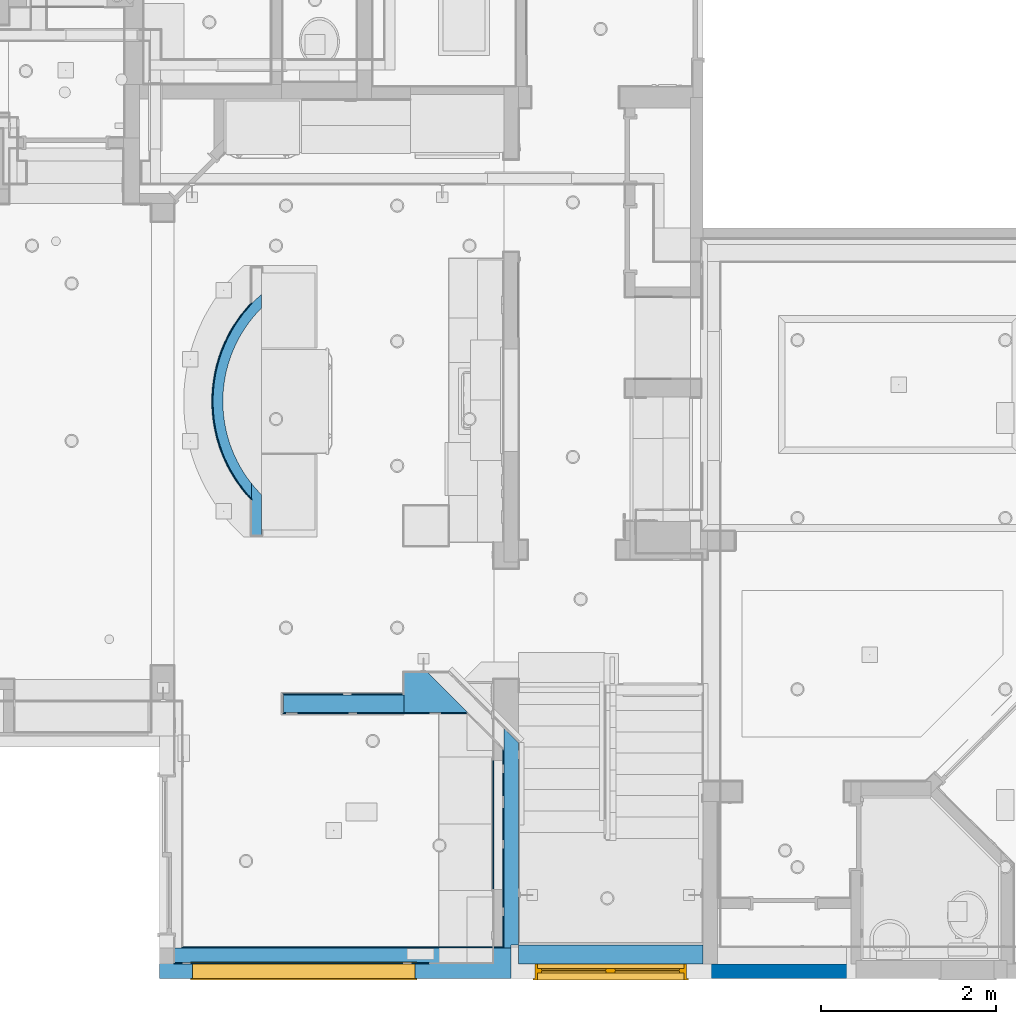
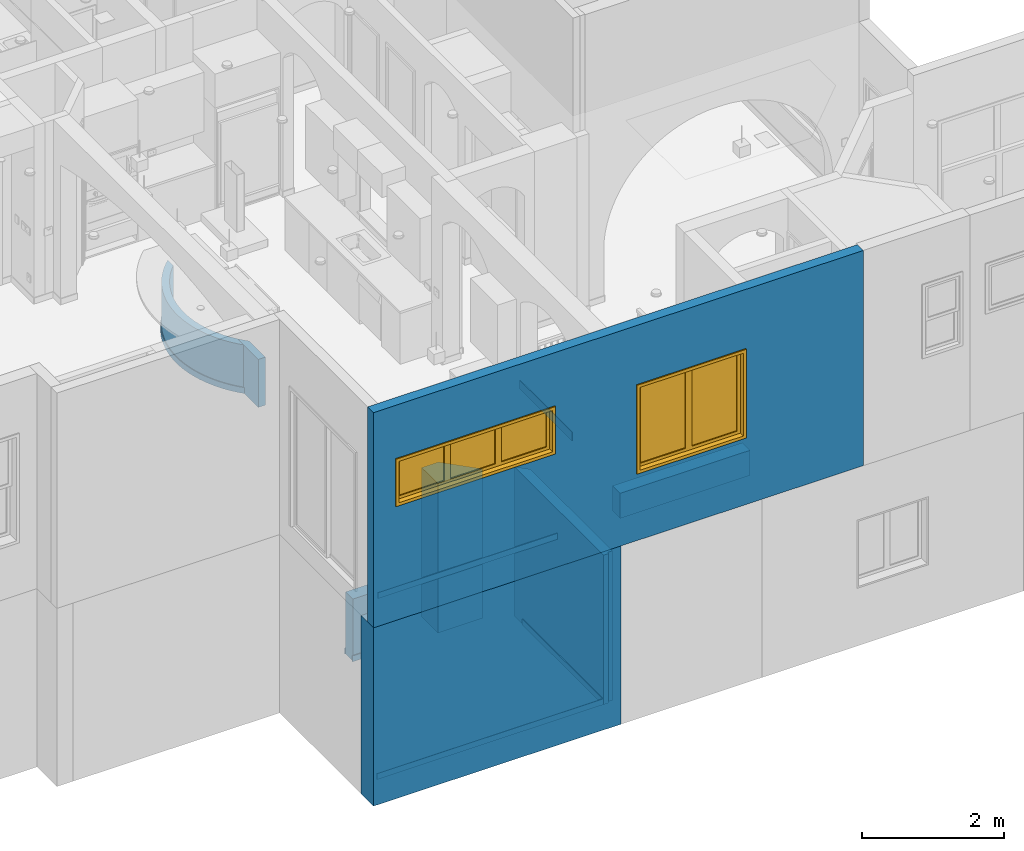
# One storey, part 3 of 60: 15 walls, 2 windows, 2 openings.
"""IFC2X3 building model written with IfcOpenShell, lengths in feet."""

from ifc_helpers import new_model, entity, si_unit, converted_unit, direction, frame, frame_2d, origin, origin_2d_with_axis, place, context, subcontext, project, spatial, polyline, circle_curve, parameter, trimmed, segment, composite_curve, rectangle, outline, extrude, source, transform, mapped, material, material_list, layer, layer_set, layer_usage, type_object, type_shapes, element, fill, save


model = new_model("IFC2X3")

# Units and contexts
model_context = context("Model", 3, precision=0.0001, world=origin(), true_north=direction((6.123031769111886e-17, 1.0)))
plan_context = context("Plan", 3, precision=0.0001, world=origin(), true_north=direction((6.123031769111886e-17, 1.0)))
body_context = subcontext(model_context, "Body", "Model", "MODEL_VIEW")
ifc_project = project(units=[converted_unit("LENGTHUNIT", "FOOT", entity("IfcLengthMeasure", 0.3048), si_unit("LENGTHUNIT", "METRE"), dimensions=[1, 0, 0, 0, 0, 0, 0]), converted_unit("AREAUNIT", "SQUARE FOOT", entity("IfcAreaMeasure", 0.09290304), si_unit("AREAUNIT", "SQUARE_METRE"), dimensions=[2, 0, 0, 0, 0, 0, 0]), converted_unit("PLANEANGLEUNIT", "DEGREE", entity("IfcPlaneAngleMeasure", 0.017453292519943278), si_unit("PLANEANGLEUNIT", "RADIAN"), dimensions=[0, 0, 0, 0, 0, 0, 0])], contexts=[model_context, plan_context])

# Site, building, storey
site_placement = place(None, origin())
site = spatial("IfcSite", under=ifc_project, at=site_placement, Name="Default", CompositionType="ELEMENT")
building_placement = place(site_placement, origin())
building = spatial("IfcBuilding", under=site, at=building_placement, CompositionType="ELEMENT")
storey_placement = place(building_placement, origin())
storey = spatial("IfcBuildingStorey", under=building, at=storey_placement, Name="First floor", CompositionType="ELEMENT", Elevation=0.0)

# Wall, openings, windows
ifc_material_1 = material(Name="Default New Material")
ifc_layer_1 = layer(ifc_material_1, 0.5416666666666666)
ifc_layer_set_1 = layer_set([ifc_layer_1], Name="Basic Wall:Wall_6.5\"")
ifc_layer_usage_1 = layer_usage(ifc_layer_set_1, "AXIS2", "NEGATIVE", 0.2708333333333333)
wall_type_1 = type_object("IfcWallType", Name="Basic Wall:Wall_6.5\"", PredefinedType="STANDARD", material=ifc_layer_set_1)
wall_1_placement = place(storey_placement, frame((26.104166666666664, 0.2708333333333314, 9.541666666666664), z_axis=(0.0, 0.0, 1.0), x_axis=(-1.0, 0.0, 0.0)))
wall_1 = element("IfcWallStandardCase", 1, at=wall_1_placement, inside=storey, type_object=wall_type_1, material=ifc_layer_usage_1, Name="Basic Wall:Wall_6.5\"", ObjectType="Basic Wall:Wall_6.5\"", context=body_context, shape_type="SweptSolid", body=[
    extrude(rectangle(XDim=26.10416666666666, YDim=0.5416666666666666, at=frame_2d((13.05208333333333, 0.0), x_axis=(-1.0, 0.0))), origin(), (0.0, 0.0, 1.0), 12.125),
])
opening_1_placement = place(wall_1_placement, frame((12.02083333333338, 0.27083333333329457, 3.8750000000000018)))
opening_1 = element("IfcOpeningElement", 2, at=opening_1_placement, cuts=wall_1, Name="C_Double Window:5'-6\" X 4'-8\":1", ObjectType="Opening", context=body_context, shape_type="SweptSolid", body=[
    extrude(rectangle(XDim=5.666666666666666, YDim=4.833333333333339, at=frame_2d((2.4166666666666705, 2.833333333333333), x_axis=(0.0, 1.0))), frame((0.0, 0.0, 0.0), z_axis=(0.0, -1.0, 0.0), x_axis=(0.0, 0.0, 1.0)), (0.0, 0.0, 1.0), 0.5416666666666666),
])
opening_2_placement = place(wall_1_placement, frame((24.85416666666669, 0.2708333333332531, 6.54166666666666)))
opening_2 = element("IfcOpeningElement", 3, at=opening_2_placement, cuts=wall_1, Name="C_Triple Window:8'-2\" X 2'-4\":1", ObjectType="Opening", context=body_context, shape_type="SweptSolid", body=[
    extrude(rectangle(XDim=8.33333333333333, YDim=2.5000000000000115, at=frame_2d((1.2500000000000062, 4.166666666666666), x_axis=(0.0, 1.0))), frame((0.0, 0.0, 0.0), z_axis=(0.0, -1.0, 0.0), x_axis=(0.0, 0.0, 1.0)), (0.0, 0.0, 1.0), 0.5416666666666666),
])
ifc_material_2 = material(Name="Glass")
ifc_material_list = material_list([ifc_material_1, ifc_material_2])
window_style_1 = type_object("IfcWindowStyle", Name="C_Triple Window:8'-2\" X 2'-4\"", ConstructionType="NOTDEFINED", OperationType="NOTDEFINED", ParameterTakesPrecedence=False, Sizeable=False, material=ifc_material_list)
shared_shape_1 = source(origin(), body_context, "Body", "SweptSolid", [
    extrude(rectangle(XDim=0.04166666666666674, YDim=0.04166666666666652, at=origin_2d_with_axis()), frame((3.7685185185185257, 0.2916666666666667, 0.25000000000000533), z_axis=(0.0, 0.0, 1.0), x_axis=(-1.0, 0.0, 0.0)), (0.0, 0.0, 1.0), 2.0000000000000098),
    extrude(rectangle(XDim=0.04166666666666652, YDim=0.04166666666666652, at=origin_2d_with_axis()), frame((4.56481481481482, 0.2916666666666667, 0.25000000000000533), z_axis=(0.0, 0.0, 1.0), x_axis=(-1.0, 0.0, 0.0)), (0.0, 0.0, 1.0), 2.0000000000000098),
    extrude(rectangle(XDim=2.3888888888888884, YDim=0.04166666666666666, at=origin_2d_with_axis()), frame((4.166666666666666, 0.29166666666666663, 0.25000000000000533)), (0.0, 0.0, 1.0), 2.0000000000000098),
    extrude(outline(polyline([(-1.3611111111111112, -1.1666666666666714), (1.3611111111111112, -1.1666666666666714), (1.3611111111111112, 1.1666666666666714), (-1.3611111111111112, 1.1666666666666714), (-1.3611111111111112, -1.1666666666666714)]), holes=[polyline([(1.1944444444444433, -1.0), (-1.194444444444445, -1.0), (-1.194444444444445, 1.0), (1.194444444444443, 1.0), (1.1944444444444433, -1.0)])]), frame((4.166666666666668, 0.20833333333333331, 1.2500000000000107), z_axis=(0.0, 1.0, 0.0), x_axis=(1.0, 0.0, 0.0)), (0.0, 0.0, 1.0), 0.16666666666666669),
    extrude(rectangle(XDim=2.3888888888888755, YDim=0.04166666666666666, at=origin_2d_with_axis()), frame((4.166666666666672, 0.29166666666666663, 0.8958333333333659)), (0.0, 0.0, 1.0), 0.041666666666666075),
    extrude(rectangle(XDim=2.38888888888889, YDim=0.04166666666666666, at=origin_2d_with_axis()), frame((4.166666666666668, 0.29166666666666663, 1.5625000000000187)), (0.0, 0.0, 1.0), 0.041666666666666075),
    extrude(rectangle(XDim=0.04166666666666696, YDim=0.04166666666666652, at=frame_2d((4.440892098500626e-16, 0.0), x_axis=(1.0, 0.0))), frame((1.0462962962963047, 0.2916666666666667, 0.25000000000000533), z_axis=(0.0, 0.0, 1.0), x_axis=(-1.0, 0.0, 0.0)), (0.0, 0.0, 1.0), 2.0000000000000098),
    extrude(rectangle(XDim=0.04166666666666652, YDim=0.04166666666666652, at=origin_2d_with_axis()), frame((1.8425925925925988, 0.2916666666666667, 0.25000000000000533), z_axis=(0.0, 0.0, 1.0), x_axis=(-1.0, 0.0, 0.0)), (0.0, 0.0, 1.0), 2.0000000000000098),
    extrude(rectangle(XDim=2.3888888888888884, YDim=0.04166666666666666, at=frame_2d((-1.1102230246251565e-16, 0.0), x_axis=(1.0, 0.0))), frame((1.444444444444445, 0.29166666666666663, 0.25000000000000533)), (0.0, 0.0, 1.0), 2.0000000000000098),
    extrude(outline(polyline([(-1.3611111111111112, -1.1666666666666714), (1.3611111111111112, -1.1666666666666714), (1.3611111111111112, 1.1666666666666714), (-1.3611111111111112, 1.1666666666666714), (-1.3611111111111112, -1.1666666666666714)]), holes=[polyline([(1.1944444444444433, -1.0), (-1.194444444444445, -1.0), (-1.194444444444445, 1.0), (1.194444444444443, 1.0), (1.1944444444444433, -1.0)])]), frame((1.444444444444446, 0.20833333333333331, 1.2500000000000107), z_axis=(0.0, 1.0, 0.0), x_axis=(1.0, 0.0, 0.0)), (0.0, 0.0, 1.0), 0.16666666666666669),
    extrude(rectangle(XDim=2.3888888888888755, YDim=0.04166666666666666, at=frame_2d((2.220446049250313e-16, 0.0), x_axis=(1.0, 0.0))), frame((1.4444444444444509, 0.29166666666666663, 0.8958333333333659)), (0.0, 0.0, 1.0), 0.041666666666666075),
    extrude(rectangle(XDim=2.38888888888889, YDim=0.04166666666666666, at=origin_2d_with_axis()), frame((1.444444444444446, 0.29166666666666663, 1.5625000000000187)), (0.0, 0.0, 1.0), 0.041666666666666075),
    extrude(rectangle(XDim=0.04166666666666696, YDim=0.04166666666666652, at=origin_2d_with_axis()), frame((6.490740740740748, 0.2916666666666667, 0.25000000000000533), z_axis=(0.0, 0.0, 1.0), x_axis=(-1.0, 0.0, 0.0)), (0.0, 0.0, 1.0), 2.0000000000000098),
    extrude(rectangle(XDim=0.04166666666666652, YDim=0.04166666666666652, at=origin_2d_with_axis()), frame((7.287037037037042, 0.2916666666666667, 0.25000000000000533), z_axis=(0.0, 0.0, 1.0), x_axis=(-1.0, 0.0, 0.0)), (0.0, 0.0, 1.0), 2.0000000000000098),
    extrude(rectangle(XDim=2.3888888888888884, YDim=0.04166666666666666, at=frame_2d((-4.440892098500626e-16, 0.0), x_axis=(1.0, 0.0))), frame((6.888888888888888, 0.29166666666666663, 0.25000000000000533)), (0.0, 0.0, 1.0), 2.0000000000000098),
    extrude(outline(polyline([(-1.3611111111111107, -1.1666666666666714), (1.3611111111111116, -1.1666666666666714), (1.3611111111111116, 1.1666666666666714), (-1.3611111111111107, 1.1666666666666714), (-1.3611111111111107, -1.1666666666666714)]), holes=[polyline([(1.1944444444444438, -1.0), (-1.1944444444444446, -1.0), (-1.1944444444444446, 1.0), (1.1944444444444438, 1.0), (1.1944444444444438, -1.0)])]), frame((6.888888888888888, 0.20833333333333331, 1.2500000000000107), z_axis=(0.0, 1.0, 0.0), x_axis=(1.0, 0.0, 0.0)), (0.0, 0.0, 1.0), 0.16666666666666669),
    extrude(rectangle(XDim=2.3888888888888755, YDim=0.04166666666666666, at=frame_2d((2.220446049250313e-16, 0.0), x_axis=(1.0, 0.0))), frame((6.888888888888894, 0.29166666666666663, 0.8958333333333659)), (0.0, 0.0, 1.0), 0.041666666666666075),
    extrude(rectangle(XDim=2.38888888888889, YDim=0.04166666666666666, at=frame_2d((-4.440892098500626e-16, 0.0), x_axis=(1.0, 0.0))), frame((6.888888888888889, 0.29166666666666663, 1.5625000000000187)), (0.0, 0.0, 1.0), 0.041666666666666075),
    extrude(outline(polyline([(-4.250000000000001, -1.3333333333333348), (4.250000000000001, -1.3333333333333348), (4.250000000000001, 1.3333333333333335), (-4.250000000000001, 1.3333333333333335), (-4.250000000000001, -1.3333333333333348)]), holes=[polyline([(-4.083333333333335, -1.1666666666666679), (-4.083333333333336, 1.166666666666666), (4.0833333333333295, 1.166666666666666), (4.0833333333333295, -1.1666666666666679), (-4.083333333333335, -1.1666666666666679)])]), frame((4.166666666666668, -0.0625, 1.2500000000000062), z_axis=(0.0, 1.0, 0.0), x_axis=(1.0, 0.0, 0.0)), (0.0, 0.0, 1.0), 0.0625),
    extrude(outline(polyline([(-4.249999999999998, -1.333333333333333), (4.249999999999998, -1.333333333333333), (4.249999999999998, 1.3333333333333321), (-4.249999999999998, 1.3333333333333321), (-4.249999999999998, -1.333333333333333)]), holes=[polyline([(-4.083333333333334, -1.166666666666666), (-4.083333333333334, 1.1666666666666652), (4.08333333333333, 1.1666666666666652), (4.08333333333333, -1.166666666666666), (-4.083333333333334, -1.166666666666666)])]), frame((4.166666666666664, 0.5416666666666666, 1.2500000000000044), z_axis=(0.0, 1.0, 0.0), x_axis=(1.0, 0.0, 0.0)), (0.0, 0.0, 1.0), 0.0625),
    extrude(outline(polyline([(-4.166666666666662, -1.2499999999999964), (4.166666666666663, -1.2499999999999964), (4.166666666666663, 1.2499999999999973), (-4.166666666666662, 1.2499999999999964), (-4.166666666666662, -1.2499999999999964)]), holes=[polyline([(4.08333333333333, -1.1666666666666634), (-4.08333333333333, -1.1666666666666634), (-4.083333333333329, 1.1666666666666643), (4.0833333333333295, 1.1666666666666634), (4.08333333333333, -1.1666666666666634)])]), frame((4.166666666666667, 0.0, 1.250000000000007), z_axis=(0.0, 1.0, 0.0), x_axis=(1.0, 0.0, 0.0)), (0.0, 0.0, 1.0), 0.5416666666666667),
])
type_shapes(window_style_1, [shared_shape_1])
window_1_placement = place(opening_2_placement, frame((0.0, 0.0, 0.0), z_axis=(0.0, 0.0, 1.0), x_axis=(-1.0, 0.0, 0.0)))
window_1 = element("IfcWindow", 4, at=window_1_placement, inside=storey, type_object=window_style_1, material=ifc_material_list, Name="C_Triple Window:8'-2\" X 2'-4\"", ObjectType="C_Triple Window:8'-2\" X 2'-4\"", OverallHeight=2.5000000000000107, OverallWidth=8.333333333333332, context=body_context, shape_type="MappedRepresentation", body=[
    mapped(shared_shape_1, transform((0.0, 0.0, 0.0), scale=1.0)),
])
fill(opening_2, window_1)
window_style_2 = type_object("IfcWindowStyle", Name="C_Double Window:5'-6\" X 4'-8\"", ConstructionType="NOTDEFINED", OperationType="NOTDEFINED", ParameterTakesPrecedence=False, Sizeable=False, material=ifc_material_list)
shared_shape_2 = source(origin(), body_context, "Body", "SweptSolid", [
    extrude(outline(polyline([(-1.3750000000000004, -2.333333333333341), (1.3750000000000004, -2.333333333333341), (1.3750000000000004, 2.333333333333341), (-1.3750000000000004, 2.333333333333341), (-1.3750000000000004, -2.333333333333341)]), holes=[polyline([(1.2083333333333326, -2.166666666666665), (-1.2083333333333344, -2.1666666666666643), (-1.2083333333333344, 2.166666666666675), (1.2083333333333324, 2.166666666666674), (1.2083333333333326, -2.166666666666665)])]), frame((1.458333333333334, 0.20833333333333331, 2.4166666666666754), z_axis=(0.0, 1.0, 0.0), x_axis=(1.0, 0.0, 0.0)), (0.0, 0.0, 1.0), 0.16666666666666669),
    extrude(rectangle(XDim=2.416666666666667, YDim=0.04166666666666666, at=frame_2d((-1.1102230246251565e-16, 0.0), x_axis=(1.0, 0.0))), frame((1.458333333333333, 0.29166666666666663, 0.25000000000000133)), (0.0, 0.0, 1.0), 4.333333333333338),
    extrude(outline(polyline([(-1.3750000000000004, -2.333333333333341), (1.3750000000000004, -2.333333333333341), (1.3750000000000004, 2.333333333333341), (-1.3750000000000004, 2.333333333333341), (-1.3750000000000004, -2.333333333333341)]), holes=[polyline([(1.2083333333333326, -2.166666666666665), (-1.2083333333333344, -2.1666666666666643), (-1.2083333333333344, 2.166666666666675), (1.2083333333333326, 2.166666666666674), (1.2083333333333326, -2.166666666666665)])]), frame((4.208333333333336, 0.20833333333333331, 2.4166666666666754), z_axis=(0.0, 1.0, 0.0), x_axis=(1.0, 0.0, 0.0)), (0.0, 0.0, 1.0), 0.16666666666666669),
    extrude(rectangle(XDim=2.416666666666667, YDim=0.04166666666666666, at=origin_2d_with_axis()), frame((4.208333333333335, 0.29166666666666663, 0.25000000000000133)), (0.0, 0.0, 1.0), 4.333333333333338),
    extrude(outline(polyline([(-2.9166666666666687, -2.5000000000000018), (2.9166666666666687, -2.5000000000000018), (2.9166666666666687, 2.5), (-2.9166666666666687, 2.5), (-2.9166666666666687, -2.5000000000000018)]), holes=[polyline([(-2.750000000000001, -2.333333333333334), (-2.750000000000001, 2.3333333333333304), (2.7499999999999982, 2.3333333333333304), (2.7499999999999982, -2.333333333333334), (-2.750000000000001, -2.333333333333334)])]), frame((2.8333333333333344, -0.0625, 2.4166666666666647), z_axis=(0.0, 1.0, 0.0), x_axis=(1.0, 0.0, 0.0)), (0.0, 0.0, 1.0), 0.0625),
    extrude(outline(polyline([(-2.916666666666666, -2.4999999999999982), (2.916666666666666, -2.4999999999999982), (2.916666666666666, 2.4999999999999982), (-2.916666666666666, 2.4999999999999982), (-2.916666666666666, -2.4999999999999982)]), holes=[polyline([(-2.7500000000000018, -2.333333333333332), (-2.7500000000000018, 2.333333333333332), (2.7499999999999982, 2.333333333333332), (2.7499999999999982, -2.333333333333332), (-2.7500000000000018, -2.333333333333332)])]), frame((2.833333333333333, 0.5416666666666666, 2.4166666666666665), z_axis=(0.0, 1.0, 0.0), x_axis=(1.0, 0.0, 0.0)), (0.0, 0.0, 1.0), 0.0625),
    extrude(outline(polyline([(-2.833333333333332, -2.4166666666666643), (2.833333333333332, -2.4166666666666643), (2.833333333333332, 2.416666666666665), (-2.833333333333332, 2.416666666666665), (-2.833333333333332, -2.4166666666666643)]), holes=[polyline([(2.7499999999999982, -2.3333333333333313), (-2.7499999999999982, -2.3333333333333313), (-2.749999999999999, 2.3333333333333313), (2.7499999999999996, 2.333333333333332), (2.7499999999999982, -2.3333333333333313)])]), frame((2.8333333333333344, 0.0, 2.4166666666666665), z_axis=(0.0, 1.0, 0.0), x_axis=(1.0, 0.0, 0.0)), (0.0, 0.0, 1.0), 0.5416666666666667),
])
type_shapes(window_style_2, [shared_shape_2])
window_2_placement = place(opening_1_placement, frame((0.0, 0.0, 0.0), z_axis=(0.0, 0.0, 1.0), x_axis=(-1.0, 0.0, 0.0)))
window_2 = element("IfcWindow", 5, at=window_2_placement, inside=storey, type_object=window_style_2, material=ifc_material_list, Name="C_Double Window:5'-6\" X 4'-8\"", ObjectType="C_Double Window:5'-6\" X 4'-8\"", OverallHeight=4.833333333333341, OverallWidth=5.666666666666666, context=body_context, shape_type="MappedRepresentation", body=[
    mapped(shared_shape_2, transform((0.0, 0.0, 0.0), scale=1.0)),
])
fill(opening_1, window_2)

# Walls
ifc_layer_usage_2 = layer_usage(ifc_layer_set_1, "AXIS2", "NEGATIVE", 0.2708333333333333)
wall_2_placement = place(storey_placement, frame((13.187498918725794, 1.1458333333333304, 0.0), z_axis=(0.0, 0.0, 1.0), x_axis=(0.0, 1.0, 0.0)))
element("IfcWallStandardCase", 6, at=wall_2_placement, inside=storey, type_object=wall_type_1, material=ifc_layer_usage_2, Name="Basic Wall:Wall_6.5\"", ObjectType="Basic Wall:Wall_6.5\"", context=body_context, shape_type="SweptSolid", body=[
    extrude(outline(polyline([(3.133679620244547, -3.5645728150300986), (3.899711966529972, -3.5645728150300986), (3.3580452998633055, -3.0229061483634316), (-1.919188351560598, 2.254327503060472), (-2.11069643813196, 2.0628194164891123), (-2.095965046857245, 2.048088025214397), (-2.0370394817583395, 1.9891624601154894), (-2.228547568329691, 1.7976543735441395), (3.133679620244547, -3.5645728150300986)])), frame((2.9511213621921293, 0.033854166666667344, 0.0), z_axis=(0.0, 0.0, 1.0), x_axis=(0.7071067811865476, 0.7071067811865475, 0.0)), (0.0, 0.0, 1.0), 8.416666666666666),
])
ifc_layer_2 = layer(ifc_material_1, 0.6666666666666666)
ifc_layer_set_2 = layer_set([ifc_layer_2], Name="Basic Wall:Wall_8\"")
ifc_layer_usage_3 = layer_usage(ifc_layer_set_2, "AXIS2", "POSITIVE", -0.33333333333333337)
wall_type_2 = type_object("IfcWallType", Name="Basic Wall:Wall_8\"", PredefinedType="STANDARD", material=ifc_layer_set_2)
wall_3_placement = place(storey_placement, frame((9.171394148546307, 10.29172442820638, 0.0), z_axis=(0.0, 0.0, 1.0), x_axis=(-1.0, 0.0, 0.0)))
element("IfcWallStandardCase", 7, at=wall_3_placement, inside=storey, type_object=wall_type_2, material=ifc_layer_usage_3, Name="Basic Wall:Wall_8\"", ObjectType="Basic Wall:Wall_8\"", context=body_context, shape_type="SweptSolid", body=[
    extrude(rectangle(XDim=4.520815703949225, YDim=0.6666666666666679, at=frame_2d((2.2604078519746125, 2.7755575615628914e-17), x_axis=(-1.0, 0.0))), origin(), (0.0, 0.0, 1.0), 3.5),
])
ifc_layer_3 = layer(ifc_material_1, 0.7083333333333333)
ifc_layer_set_3 = layer_set([ifc_layer_3], Name="Basic Wall:Wall_8.5\"")
ifc_layer_usage_4 = layer_usage(ifc_layer_set_3, "AXIS2", "POSITIVE", -0.35416666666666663)
wall_type_3 = type_object("IfcWallType", Name="Basic Wall:Wall_8.5\"", PredefinedType="STANDARD", material=ifc_layer_set_3)
wall_4_placement = place(storey_placement, frame((13.458332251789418, 0.895709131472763, 10.666666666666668)))
element("IfcWallStandardCase", 8, at=wall_4_placement, inside=storey, type_object=wall_type_3, material=ifc_layer_usage_4, Name="Basic Wall:Wall_8.5\"", ObjectType="Basic Wall:Wall_8.5\"", context=body_context, shape_type="SweptSolid", body=[
    extrude(rectangle(XDim=6.916666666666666, YDim=0.7083333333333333, at=frame_2d((3.458333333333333, 0.0), x_axis=(-1.0, 0.0))), origin(), (0.0, 0.0, 1.0), 1.4166666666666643),
])
ifc_layer_4 = layer(ifc_material_1, 0.375)
ifc_layer_set_4 = layer_set([ifc_layer_4], Name="Basic Wall:Wall_4.5\"")
ifc_layer_usage_5 = layer_usage(ifc_layer_set_4, "AXIS2", "NEGATIVE", 0.1875)
wall_type_4 = type_object("IfcWallType", Name="Basic Wall:Wall_4.5\"", PredefinedType="STANDARD", material=ifc_layer_set_4)
wall_5_placement = place(storey_placement, frame((3.645833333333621, 16.624999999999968, 10.666666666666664), z_axis=(0.0, 0.0, 1.0), x_axis=(0.0, 1.0, 0.0)))
element("IfcWallStandardCase", 9, at=wall_5_placement, inside=storey, type_object=wall_type_4, material=ifc_layer_usage_5, Name="Basic Wall:Wall_4.5\"", ObjectType="Basic Wall:Wall_4.5\"", context=body_context, shape_type="SweptSolid", body=[
    extrude(outline(composite_curve([segment(trimmed(circle_curve(frame_2d((5.0, -3.6831252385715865), x_axis=(0.0, -1.0)), 4.9466550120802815), [parameter(218.51241476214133)], [parameter(225.03583029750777)], True, "PARAMETER"), False, "CONTINUOUS"), segment(polyline([(1.9197960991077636, 0.18750000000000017), (1.34784004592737, 0.18750000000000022)]), True, "CONTINUOUS"), segment(polyline([(1.34784004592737, 0.18750000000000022), (0.0, 0.1875)]), True, "CONTINUOUS"), segment(polyline([(0.0, 0.1875), (0.0, -0.1875)]), True, "CONTINUOUS"), segment(polyline([(0.0, -0.1875), (1.499999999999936, -0.1875)]), True, "CONTINUOUS")], self_intersect=False)), origin(), (0.0, 0.0, 1.0), 2.7083333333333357),
])
ifc_layer_usage_6 = layer_usage(ifc_layer_set_4, "AXIS2", "POSITIVE", -0.1875)
wall_6_placement = place(storey_placement, frame((3.594708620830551, 18.101518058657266, 10.666666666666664)))
element("IfcWallStandardCase", 10, at=wall_6_placement, inside=storey, type_object=wall_type_4, material=ifc_layer_usage_6, Name="Basic Wall:Wall_4.5\"", ObjectType="Basic Wall:Wall_4.5\"", context=body_context, shape_type="SweptSolid", body=[
    extrude(outline(composite_curve([segment(trimmed(circle_curve(frame_2d((3.7342499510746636, 3.523481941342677), x_axis=(1.0, 0.0)), 5.3216550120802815), [parameter(131.06144888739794)], [parameter(136.6634293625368)], True, "PARAMETER"), True, "CONTINUOUS"), segment(trimmed(circle_curve(frame_2d((3.7342499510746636, 3.523481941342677), x_axis=(1.0, 0.0)), 5.3216550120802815), [parameter(136.6634293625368)], [parameter(223.33657063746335)], True, "PARAMETER"), True, "CONTINUOUS"), segment(polyline([(-0.1363752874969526, -0.12867801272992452), (-0.13637528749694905, 0.4432780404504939)]), True, "CONTINUOUS"), segment(trimmed(circle_curve(frame_2d((3.7342499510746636, 3.523481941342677), x_axis=(1.0, 0.0)), 4.9466550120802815), [parameter(134.96416970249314)], [parameter(218.512414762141)], True, "PARAMETER"), False, "CONTINUOUS"), segment(polyline([(0.23862471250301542, 7.023481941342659), (0.23862471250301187, 7.536039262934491)]), True, "CONTINUOUS")], self_intersect=False)), origin(), (0.0, 0.0, 1.0), 2.7083333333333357),
])
ifc_layer_5 = layer(ifc_material_1, 1.1458333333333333)
ifc_layer_set_5 = layer_set([ifc_layer_5], Name="Basic Wall:Wall_1' 1 3/4\"")
ifc_layer_usage_7 = layer_usage(ifc_layer_set_5, "AXIS2", "NEGATIVE", 0.5729166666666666)
wall_type_5 = type_object("IfcWallType", Name="Basic Wall:Wall_1' 1 3/4\"", PredefinedType="STANDARD", material=ifc_layer_set_5)
wall_7_placement = place(storey_placement, frame((13.187498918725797, 0.5729166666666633, -0.5), z_axis=(0.0, 0.0, 1.0), x_axis=(-1.0, 0.0, 0.0)))
element("IfcWallStandardCase", 11, at=wall_7_placement, inside=storey, type_object=wall_type_5, material=ifc_layer_usage_7, Name="Basic Wall:Wall_1' 1 3/4\"", ObjectType="Basic Wall:Wall_1' 1 3/4\"", context=body_context, shape_type="SweptSolid", body=[
    extrude(rectangle(XDim=13.187441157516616, YDim=1.1458333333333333, at=frame_2d((6.593720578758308, 0.0), x_axis=(-1.0, 0.0))), origin(), (0.0, 0.0, 1.0), 10.041666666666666),
])
ifc_layer_6 = layer(ifc_material_1, 1.5)
ifc_layer_set_6 = layer_set([ifc_layer_6], Name="Basic Wall:Wall_1'6\"")
ifc_layer_usage_8 = layer_usage(ifc_layer_set_6, "AXIS2", "NEGATIVE", 0.75)
wall_type_6 = type_object("IfcWallType", Name="Basic Wall:Wall_1'6\"", PredefinedType="STANDARD", material=ifc_layer_set_6)
wall_8_placement = place(storey_placement, frame((11.567351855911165, 10.708298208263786, 0.0), z_axis=(0.0, 0.0, 1.0), x_axis=(-1.0, 2.0991945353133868e-05, 0.0)))
element("IfcWallStandardCase", 12, at=wall_8_placement, inside=storey, type_object=wall_type_6, material=ifc_layer_usage_8, Name="Basic Wall:Wall_1'6\"", ObjectType="Basic Wall:Wall_1'6\"", context=body_context, shape_type="SweptSolid", body=[
    extrude(outline(polyline([(2.395948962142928, -0.7499999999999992), (2.395948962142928, 0.7500000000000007), (0.0, 0.7500000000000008), (1.50006297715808, -0.7500000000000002), (2.395948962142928, -0.7499999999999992)])), origin(), (0.0, 0.0, 1.0), 8.416666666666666),
])
ifc_layer_7 = layer(ifc_material_1, 0.041666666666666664)
ifc_layer_set_7 = layer_set([ifc_layer_7], Name="Basic Wall:Wall Border_T1")
ifc_layer_usage_9 = layer_usage(ifc_layer_set_7, "AXIS2", "NEGATIVE", 0.020833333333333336)
wall_type_7 = type_object("IfcWallType", Name="Basic Wall:Wall Border_T1", PredefinedType="STANDARD", material=ifc_layer_set_7)
wall_9_placement = place(storey_placement, frame((9.12980098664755, 10.645833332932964, 0.0), z_axis=(0.0, 0.0, 1.0), x_axis=(-1.0, 0.0, 0.0)))
element("IfcWallStandardCase", 13, at=wall_9_placement, inside=storey, type_object=wall_type_7, material=ifc_layer_usage_9, Name="Basic Wall:Wall Border_T1", ObjectType="Basic Wall:Wall Border_T1", context=body_context, shape_type="SweptSolid", body=[
    extrude(rectangle(XDim=4.520889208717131, YDim=0.04166666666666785, at=frame_2d((2.2604446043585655, 3.2959746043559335e-17), x_axis=(-1.0, 0.0))), origin(), (0.0, 0.0, 1.0), 0.3333333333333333),
])
ifc_layer_usage_10 = layer_usage(ifc_layer_set_7, "AXIS2", "NEGATIVE", 0.020833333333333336)
wall_10_placement = place(storey_placement, frame((4.608911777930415, 9.937500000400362, 0.0)))
element("IfcWallStandardCase", 14, at=wall_10_placement, inside=storey, type_object=wall_type_7, material=ifc_layer_usage_10, Name="Basic Wall:Wall Border_T1", ObjectType="Basic Wall:Wall Border_T1", context=body_context, shape_type="SweptSolid", body=[
    extrude(outline(polyline([(6.941130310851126, -0.02083333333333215), (6.899463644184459, 0.020833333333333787), (0.04166666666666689, 0.020833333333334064), (0.0, 0.020833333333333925), (0.0, -0.02083333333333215), (6.941130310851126, -0.02083333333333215)])), origin(), (0.0, 0.0, 1.0), 0.3333333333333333),
])
ifc_layer_usage_11 = layer_usage(ifc_layer_set_7, "AXIS2", "NEGATIVE", 0.020833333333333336)
wall_11_placement = place(storey_placement, frame((12.895833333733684, 8.591708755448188, 0.0), z_axis=(0.0, 0.0, 1.0), x_axis=(0.0, -1.0, 0.0)))
element("IfcWallStandardCase", 15, at=wall_11_placement, inside=storey, type_object=wall_type_7, material=ifc_layer_usage_11, Name="Basic Wall:Wall Border_T1", ObjectType="Basic Wall:Wall Border_T1", context=body_context, shape_type="SweptSolid", body=[
    extrude(outline(polyline([(7.404208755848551, -0.02083333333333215), (7.404208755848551, 0.020833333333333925), (0.041666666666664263, 0.020833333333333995), (0.0, -0.02083333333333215), (7.404208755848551, -0.02083333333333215)])), origin(), (0.0, 0.0, 1.0), 0.3333333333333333),
])
ifc_layer_usage_12 = layer_usage(ifc_layer_set_7, "AXIS2", "NEGATIVE", 0.020833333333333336)
wall_12_placement = place(storey_placement, frame((12.916666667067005, 1.166666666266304, 0.0), z_axis=(0.0, 0.0, 1.0), x_axis=(-1.0, 0.0, 0.0)))
element("IfcWallStandardCase", 16, at=wall_12_placement, inside=storey, type_object=wall_type_7, material=ifc_layer_usage_12, Name="Basic Wall:Wall Border_T1", ObjectType="Basic Wall:Wall Border_T1", context=body_context, shape_type="SweptSolid", body=[
    extrude(rectangle(XDim=12.083333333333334, YDim=0.04166666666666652, at=frame_2d((6.041666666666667, -8.500145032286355e-17), x_axis=(-1.0, 0.0))), origin(), (0.0, 0.0, 1.0), 0.3333333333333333),
])
ifc_layer_usage_13 = layer_usage(ifc_layer_set_7, "AXIS2", "NEGATIVE", 0.020833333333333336)
wall_13_placement = place(storey_placement, frame((12.520833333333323, 8.166666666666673, 13.666666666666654), z_axis=(0.0, 0.0, 1.0), x_axis=(0.0, -1.0, 0.0)))
element("IfcWallStandardCase", 17, at=wall_13_placement, inside=storey, type_object=wall_type_7, material=ifc_layer_usage_13, Name="Basic Wall:Wall Border_T1", ObjectType="Basic Wall:Wall Border_T1", context=body_context, shape_type="SweptSolid", body=[
    extrude(rectangle(XDim=4.833333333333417, YDim=0.04166666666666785, at=frame_2d((2.4166666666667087, 0.0), x_axis=(-1.0, 0.0))), origin(), (0.0, 0.0, 1.0), 0.5000000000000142),
])
ifc_layer_usage_14 = layer_usage(ifc_layer_set_7, "AXIS2", "NEGATIVE", 0.020833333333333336)
wall_14_placement = place(storey_placement, frame((10.125, 0.5625000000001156, 10.666666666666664), z_axis=(0.0, 0.0, 1.0), x_axis=(-1.0, 0.0, 0.0)))
element("IfcWallStandardCase", 18, at=wall_14_placement, inside=storey, type_object=wall_type_7, material=ifc_layer_usage_14, Name="Basic Wall:Wall Border_T1", ObjectType="Basic Wall:Wall Border_T1", context=body_context, shape_type="SweptSolid", body=[
    extrude(rectangle(XDim=9.583333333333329, YDim=0.04166666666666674, at=frame_2d((4.791666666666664, 2.7755575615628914e-17), x_axis=(-1.0, 0.0))), origin(), (0.0, 0.0, 1.0), 0.3333333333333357),
])
ifc_layer_usage_15 = layer_usage(ifc_layer_set_7, "AXIS2", "POSITIVE", -0.020833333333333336)
wall_15_placement = place(storey_placement, frame((3.473368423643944, 17.92681039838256, 10.666666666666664)))
element("IfcWallStandardCase", 19, at=wall_15_placement, inside=storey, type_object=wall_type_7, material=ifc_layer_usage_15, Name="Basic Wall:Wall Border_T1", ObjectType="Basic Wall:Wall Border_T1", context=body_context, shape_type="SweptSolid", body=[
    extrude(outline(composite_curve([segment(polyline([(-0.015035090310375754, -0.014421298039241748), (-0.015035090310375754, 0.04602964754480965)]), True, "CONTINUOUS"), segment(trimmed(circle_curve(frame_2d((3.8555901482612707, 3.6981896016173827), x_axis=(1.0, 0.0)), 5.3216550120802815), [parameter(136.66342936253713)], [parameter(223.336570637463)], True, "PARAMETER"), False, "CONTINUOUS"), segment(polyline([(-0.015035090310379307, 7.350349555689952), (-0.015035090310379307, 7.410800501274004)]), True, "CONTINUOUS"), segment(trimmed(circle_curve(frame_2d((3.8555901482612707, 3.6981896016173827), x_axis=(1.0, 0.0)), 5.3633216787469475), [parameter(136.1937179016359)], [parameter(136.84057245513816)], True, "PARAMETER"), True, "CONTINUOUS"), segment(trimmed(circle_curve(frame_2d((3.8555901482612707, 3.6981896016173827), x_axis=(1.0, 0.0)), 5.3633216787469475), [parameter(136.84057245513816)], [parameter(223.15943054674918)], True, "PARAMETER"), True, "CONTINUOUS"), segment(trimmed(circle_curve(frame_2d((3.8555901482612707, 3.6981896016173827), x_axis=(1.0, 0.0)), 5.3633216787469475), [parameter(223.15943054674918)], [parameter(223.8062820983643)], True, "PARAMETER"), True, "CONTINUOUS")], self_intersect=False)), origin(), (0.0, 0.0, 1.0), 0.3333333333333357),
])

save(model, "model.ifc")
